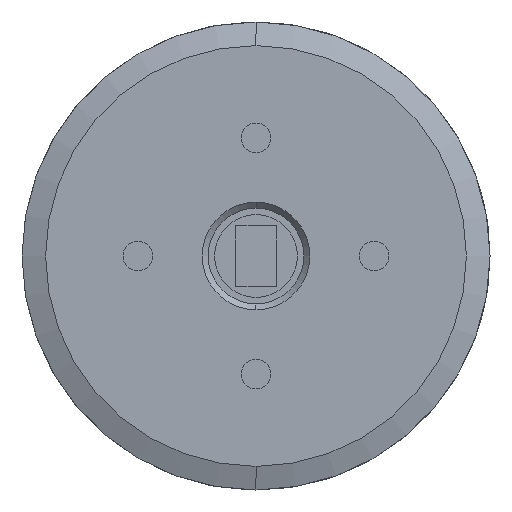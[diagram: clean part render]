
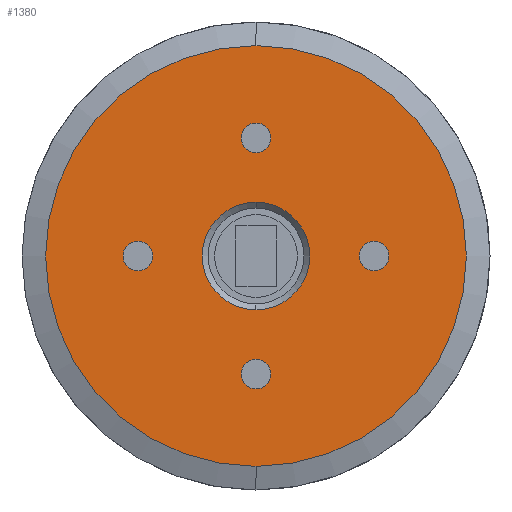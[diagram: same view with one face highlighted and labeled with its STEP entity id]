
A CAD part, left-side view. The second image highlights one B-rep face of the part: STEP entity #1380.
In plain terms, the highlighted planar face has unit normal (-1, 0, 0).
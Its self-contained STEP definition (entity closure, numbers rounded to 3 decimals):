
#109 = CARTESIAN_POINT ( 'NONE',  ( 0., 0., 10. ) ) ;
#283 = DIRECTION ( 'NONE',  ( -1., 0., 0. ) ) ;
#643 = AXIS2_PLACEMENT_3D ( 'NONE', #47476, #47665, #43671 ) ;
#788 = DIRECTION ( 'NONE',  ( 0., 0., -1. ) ) ;
#889 = AXIS2_PLACEMENT_3D ( 'NONE', #14068, #49486, #29971 ) ;
#1034 = DIRECTION ( 'NONE',  ( 0., 0., 1. ) ) ;
#1340 = CARTESIAN_POINT ( 'NONE',  ( 0., 19.8, 0. ) ) ;
#1380 = ADVANCED_FACE ( 'NONE', ( #18919, #50338, #41629, #15232, #9033, #39152 ), #44819, .F. ) ;
#3058 = VERTEX_POINT ( 'NONE', #21704 ) ;
#3427 = EDGE_CURVE ( 'NONE', #44363, #28455, #3626, .T. ) ;
#3626 = CIRCLE ( 'NONE', #34947, 1.25 ) ;
#3816 = EDGE_LOOP ( 'NONE', ( #6051, #24077 ) ) ;
#4011 = VERTEX_POINT ( 'NONE', #10965 ) ;
#4188 = DIRECTION ( 'NONE',  ( 0., 0., 1. ) ) ;
#4274 = CIRCLE ( 'NONE', #7895, 4.55 ) ;
#4619 = VERTEX_POINT ( 'NONE', #27318 ) ;
#5021 = EDGE_CURVE ( 'NONE', #17758, #4619, #16796, .T. ) ;
#5941 = CARTESIAN_POINT ( 'NONE',  ( 0., 0., 0. ) ) ;
#6051 = ORIENTED_EDGE ( 'NONE', *, *, #13751, .F. ) ;
#6501 = ORIENTED_EDGE ( 'NONE', *, *, #43506, .T. ) ;
#7269 = VERTEX_POINT ( 'NONE', #50502 ) ;
#7304 = CIRCLE ( 'NONE', #35835, 1.25 ) ;
#7895 = AXIS2_PLACEMENT_3D ( 'NONE', #35622, #15282, #42716 ) ;
#7951 = CARTESIAN_POINT ( 'NONE',  ( 0., 10., 1.25 ) ) ;
#7988 = CIRCLE ( 'NONE', #35229, 4.55 ) ;
#8566 = EDGE_LOOP ( 'NONE', ( #49906, #6501 ) ) ;
#8602 = CARTESIAN_POINT ( 'NONE',  ( 0., 0., -17.8 ) ) ;
#9033 = FACE_BOUND ( 'NONE', #42631, .T. ) ;
#9148 = DIRECTION ( 'NONE',  ( 0., 0., 1. ) ) ;
#9290 = CIRCLE ( 'NONE', #25353, 1.25 ) ;
#9626 = CARTESIAN_POINT ( 'NONE',  ( 0., 10., -1.25 ) ) ;
#10465 = ORIENTED_EDGE ( 'NONE', *, *, #46507, .T. ) ;
#10965 = CARTESIAN_POINT ( 'NONE',  ( 0., 0., 17.8 ) ) ;
#11544 = DIRECTION ( 'NONE',  ( 0., 0., 1. ) ) ;
#11761 = VERTEX_POINT ( 'NONE', #24726 ) ;
#13191 = DIRECTION ( 'NONE',  ( -1., 0., 0. ) ) ;
#13710 = DIRECTION ( 'NONE',  ( 1., 0., 0. ) ) ;
#13751 = EDGE_CURVE ( 'NONE', #11761, #7269, #43722, .T. ) ;
#13928 = CIRCLE ( 'NONE', #33000, 1.25 ) ;
#14068 = CARTESIAN_POINT ( 'NONE',  ( 0., -10., 0. ) ) ;
#14543 = CARTESIAN_POINT ( 'NONE',  ( 0., 0., -10. ) ) ;
#15232 = FACE_BOUND ( 'NONE', #50031, .T. ) ;
#15282 = DIRECTION ( 'NONE',  ( 1., 0., 0. ) ) ;
#15469 = AXIS2_PLACEMENT_3D ( 'NONE', #28729, #16400, #9148 ) ;
#15795 = EDGE_CURVE ( 'NONE', #4619, #17758, #46390, .T. ) ;
#16400 = DIRECTION ( 'NONE',  ( -1., 0., 0. ) ) ;
#16796 = CIRCLE ( 'NONE', #28511, 1.25 ) ;
#17312 = ORIENTED_EDGE ( 'NONE', *, *, #15795, .F. ) ;
#17758 = VERTEX_POINT ( 'NONE', #28624 ) ;
#18190 = DIRECTION ( 'NONE',  ( 0., 0., -1. ) ) ;
#18360 = EDGE_LOOP ( 'NONE', ( #46263, #10465 ) ) ;
#18919 = FACE_BOUND ( 'NONE', #8566, .T. ) ;
#19788 = ORIENTED_EDGE ( 'NONE', *, *, #3427, .F. ) ;
#20189 = CARTESIAN_POINT ( 'NONE',  ( 0., 0., -8.75 ) ) ;
#20339 = ORIENTED_EDGE ( 'NONE', *, *, #33499, .F. ) ;
#20464 = ORIENTED_EDGE ( 'NONE', *, *, #38755, .F. ) ;
#20742 = CARTESIAN_POINT ( 'NONE',  ( 0., -10., 0. ) ) ;
#21385 = CARTESIAN_POINT ( 'NONE',  ( 0., 10., 0. ) ) ;
#21704 = CARTESIAN_POINT ( 'NONE',  ( 0., 0., 4.55 ) ) ;
#22164 = CARTESIAN_POINT ( 'NONE',  ( 0., 0., -11.25 ) ) ;
#22940 = DIRECTION ( 'NONE',  ( -1., 0., 0. ) ) ;
#24077 = ORIENTED_EDGE ( 'NONE', *, *, #32030, .F. ) ;
#24175 = ORIENTED_EDGE ( 'NONE', *, *, #39349, .F. ) ;
#24308 = DIRECTION ( 'NONE',  ( 1., 0., 0. ) ) ;
#24726 = CARTESIAN_POINT ( 'NONE',  ( 0., -10., 1.25 ) ) ;
#25100 = VERTEX_POINT ( 'NONE', #7951 ) ;
#25320 = AXIS2_PLACEMENT_3D ( 'NONE', #1340, #13710, #28973 ) ;
#25353 = AXIS2_PLACEMENT_3D ( 'NONE', #20742, #13191, #40504 ) ;
#26400 = EDGE_LOOP ( 'NONE', ( #17312, #39164 ) ) ;
#27318 = CARTESIAN_POINT ( 'NONE',  ( 0., 0., 11.25 ) ) ;
#27344 = DIRECTION ( 'NONE',  ( -1., 0., 0. ) ) ;
#28455 = VERTEX_POINT ( 'NONE', #20189 ) ;
#28511 = AXIS2_PLACEMENT_3D ( 'NONE', #109, #283, #4188 ) ;
#28624 = CARTESIAN_POINT ( 'NONE',  ( 0., 0., 8.75 ) ) ;
#28729 = CARTESIAN_POINT ( 'NONE',  ( 0., 0., 10. ) ) ;
#28973 = DIRECTION ( 'NONE',  ( 0., 0., -1. ) ) ;
#29113 = VERTEX_POINT ( 'NONE', #8602 ) ;
#29941 = CIRCLE ( 'NONE', #36208, 1.25 ) ;
#29971 = DIRECTION ( 'NONE',  ( 0., 0., 1. ) ) ;
#30482 = CIRCLE ( 'NONE', #47868, 17.8 ) ;
#32030 = EDGE_CURVE ( 'NONE', #7269, #11761, #9290, .T. ) ;
#33000 = AXIS2_PLACEMENT_3D ( 'NONE', #21385, #44920, #36975 ) ;
#33499 = EDGE_CURVE ( 'NONE', #25100, #40314, #29941, .T. ) ;
#34227 = EDGE_CURVE ( 'NONE', #29113, #4011, #30482, .T. ) ;
#34947 = AXIS2_PLACEMENT_3D ( 'NONE', #14543, #22940, #50491 ) ;
#35183 = CARTESIAN_POINT ( 'NONE',  ( 0., 10., 0. ) ) ;
#35229 = AXIS2_PLACEMENT_3D ( 'NONE', #47874, #24308, #788 ) ;
#35622 = CARTESIAN_POINT ( 'NONE',  ( 0., 0., 0. ) ) ;
#35835 = AXIS2_PLACEMENT_3D ( 'NONE', #44825, #44648, #1034 ) ;
#36208 = AXIS2_PLACEMENT_3D ( 'NONE', #35183, #27344, #11544 ) ;
#36975 = DIRECTION ( 'NONE',  ( 0., 0., 1. ) ) ;
#37705 = CIRCLE ( 'NONE', #643, 17.8 ) ;
#38645 = VERTEX_POINT ( 'NONE', #47952 ) ;
#38755 = EDGE_CURVE ( 'NONE', #28455, #44363, #7304, .T. ) ;
#39152 = FACE_OUTER_BOUND ( 'NONE', #18360, .T. ) ;
#39164 = ORIENTED_EDGE ( 'NONE', *, *, #5021, .F. ) ;
#39349 = EDGE_CURVE ( 'NONE', #40314, #25100, #13928, .T. ) ;
#40314 = VERTEX_POINT ( 'NONE', #9626 ) ;
#40504 = DIRECTION ( 'NONE',  ( 0., 0., 1. ) ) ;
#41629 = FACE_BOUND ( 'NONE', #3816, .T. ) ;
#41687 = DIRECTION ( 'NONE',  ( -1., 0., 0. ) ) ;
#42631 = EDGE_LOOP ( 'NONE', ( #20339, #24175 ) ) ;
#42716 = DIRECTION ( 'NONE',  ( 0., 0., -1. ) ) ;
#43506 = EDGE_CURVE ( 'NONE', #38645, #3058, #7988, .T. ) ;
#43671 = DIRECTION ( 'NONE',  ( 0., 0., -1. ) ) ;
#43722 = CIRCLE ( 'NONE', #889, 1.25 ) ;
#44363 = VERTEX_POINT ( 'NONE', #22164 ) ;
#44648 = DIRECTION ( 'NONE',  ( -1., 0., 0. ) ) ;
#44819 = PLANE ( 'NONE',  #25320 ) ;
#44825 = CARTESIAN_POINT ( 'NONE',  ( 0., 0., -10. ) ) ;
#44920 = DIRECTION ( 'NONE',  ( -1., 0., 0. ) ) ;
#46263 = ORIENTED_EDGE ( 'NONE', *, *, #34227, .T. ) ;
#46390 = CIRCLE ( 'NONE', #15469, 1.25 ) ;
#46507 = EDGE_CURVE ( 'NONE', #4011, #29113, #37705, .T. ) ;
#47420 = EDGE_CURVE ( 'NONE', #3058, #38645, #4274, .T. ) ;
#47476 = CARTESIAN_POINT ( 'NONE',  ( 0., 0., 0. ) ) ;
#47665 = DIRECTION ( 'NONE',  ( -1., 0., 0. ) ) ;
#47868 = AXIS2_PLACEMENT_3D ( 'NONE', #5941, #41687, #18190 ) ;
#47874 = CARTESIAN_POINT ( 'NONE',  ( 0., 0., 0. ) ) ;
#47952 = CARTESIAN_POINT ( 'NONE',  ( 0., 0., -4.55 ) ) ;
#49486 = DIRECTION ( 'NONE',  ( -1., 0., 0. ) ) ;
#49906 = ORIENTED_EDGE ( 'NONE', *, *, #47420, .T. ) ;
#50031 = EDGE_LOOP ( 'NONE', ( #20464, #19788 ) ) ;
#50338 = FACE_BOUND ( 'NONE', #26400, .T. ) ;
#50491 = DIRECTION ( 'NONE',  ( 0., 0., 1. ) ) ;
#50502 = CARTESIAN_POINT ( 'NONE',  ( 0., -10., -1.25 ) ) ;
